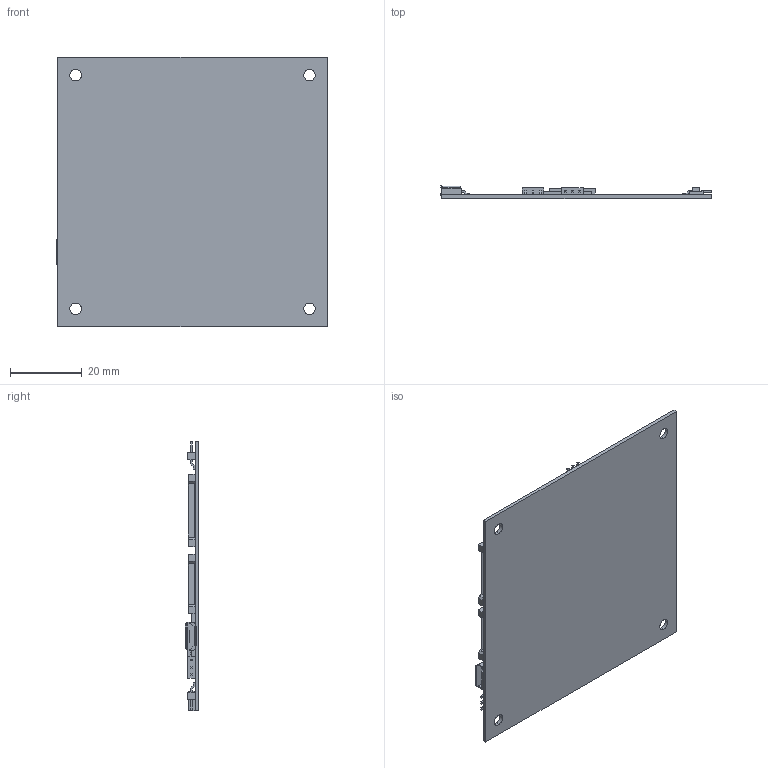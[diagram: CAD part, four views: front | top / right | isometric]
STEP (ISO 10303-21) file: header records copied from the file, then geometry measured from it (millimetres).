
FILE_DESCRIPTION (( 'STEP AP203' ), '1' );
FILE_NAME ('Assy PCB EPM-050 416024510-3 220612.STEP', '2022-06-12T21:51:07', ( '' ), ( '' ), 'SwSTEP 2.0', 'SolidWorks 2021', '' );
FILE_SCHEMA (( 'CONFIG_CONTROL_DESIGN' ));
Length unit declared in the file: inch
Products named in the file (9): 216062109-3 Hdr RA 9P TEZY; 210015239-3 Conn FXRH JST 39Way; 216062106-3 Hdr RA 6P TEZY; 212040520-3 Micro USB AB Type; PCB EPM-050 016024501-5 220612; Assy PCB EPM-050 416024510-3 220612; 210021603-3 Hdr RA 3P; 216062112-3 Hdr RA 12P TEZY; 210021604-3 Hdr RA 4P
Assembly tree (10 placements, depth 2):
  Assy PCB EPM-050 416024510-3 220612
    PCB EPM-050 016024501-5 220612
    210015239-3 Conn FXRH JST 39Way
    210021603-3 Hdr RA 3P  x3
    210021604-3 Hdr RA 4P
    212040520-3 Micro USB AB Type
    216062106-3 Hdr RA 6P TEZY
    216062109-3 Hdr RA 9P TEZY
    216062112-3 Hdr RA 12P TEZY
Bounding box: 75.3 x 3.77 x 75 mm (x, y, z)
Volume: 6331.2 mm3; surface area: 13311.1 mm2
Topology: 10 solids, 10 shells, 465 faces, 1045 edges, 630 vertices
Faces by surface type: plane 447, cylinder 18
Entity records: 9180 total; most frequent: CARTESIAN_POINT 1417, ORIENTED_EDGE 1370, DIRECTION 1341, EDGE_CURVE 685, LINE 649, VECTOR 649, VERTEX_POINT 422, AXIS2_PLACEMENT_3D 346
